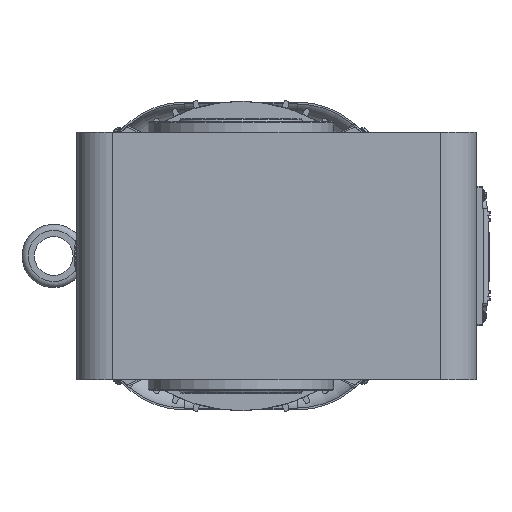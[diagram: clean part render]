
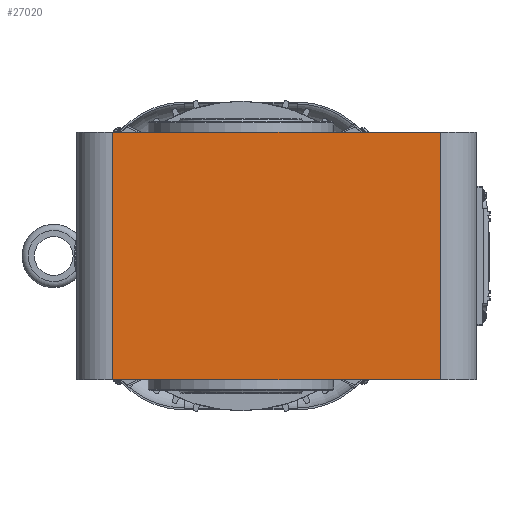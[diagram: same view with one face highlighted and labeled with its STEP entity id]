
A CAD part, left-side view. The second image highlights one B-rep face of the part: STEP entity #27020.
In plain terms, the highlighted planar face has unit normal (-1, 0, 0).
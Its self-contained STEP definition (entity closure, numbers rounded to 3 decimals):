
#815=PLANE('',#29713);
#1988=FACE_OUTER_BOUND('',#3577,.T.);
#3577=EDGE_LOOP('',(#21829,#21830,#21831,#21832));
#7179=LINE('',#45796,#9304);
#7206=LINE('',#45910,#9331);
#7207=LINE('',#45914,#9332);
#7208=LINE('',#45915,#9333);
#9304=VECTOR('',#36203,212.);
#9331=VECTOR('',#36322,160.);
#9332=VECTOR('',#36327,160.);
#9333=VECTOR('',#36328,212.);
#12064=VERTEX_POINT('',#45793);
#12065=VERTEX_POINT('',#45795);
#12106=VERTEX_POINT('',#45909);
#12107=VERTEX_POINT('',#45913);
#15463=EDGE_CURVE('',#12065,#12064,#7179,.T.);
#15518=EDGE_CURVE('',#12065,#12106,#7206,.T.);
#15520=EDGE_CURVE('',#12107,#12064,#7207,.T.);
#15521=EDGE_CURVE('',#12107,#12106,#7208,.T.);
#21829=ORIENTED_EDGE('',*,*,#15518,.F.);
#21830=ORIENTED_EDGE('',*,*,#15463,.T.);
#21831=ORIENTED_EDGE('',*,*,#15520,.F.);
#21832=ORIENTED_EDGE('',*,*,#15521,.T.);
#27020=ADVANCED_FACE('',(#1988),#815,.T.);
#29713=AXIS2_PLACEMENT_3D('',#45912,#36325,#36326);
#36203=DIRECTION('',(0.,1.,0.));
#36322=DIRECTION('',(0.,0.,-1.));
#36325=DIRECTION('center_axis',(-1.,0.,0.));
#36326=DIRECTION('ref_axis',(0.,0.,1.));
#36327=DIRECTION('',(0.,0.,1.));
#36328=DIRECTION('',(0.,-1.,0.));
#45793=CARTESIAN_POINT('',(-131.678,72.857,80.));
#45795=CARTESIAN_POINT('',(-131.678,-139.143,80.));
#45796=CARTESIAN_POINT('',(-131.678,-139.143,80.));
#45909=CARTESIAN_POINT('',(-131.678,-139.143,-80.));
#45910=CARTESIAN_POINT('',(-131.678,-139.143,80.));
#45912=CARTESIAN_POINT('Origin',(-131.678,-162.143,-80.));
#45913=CARTESIAN_POINT('',(-131.678,72.857,-80.));
#45914=CARTESIAN_POINT('',(-131.678,72.857,-80.));
#45915=CARTESIAN_POINT('',(-131.678,72.857,-80.));
